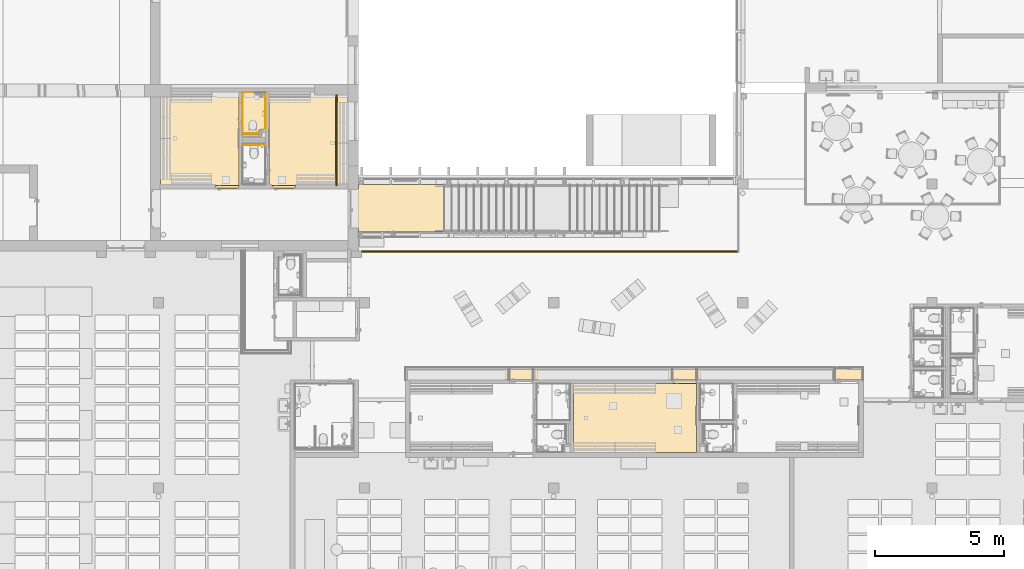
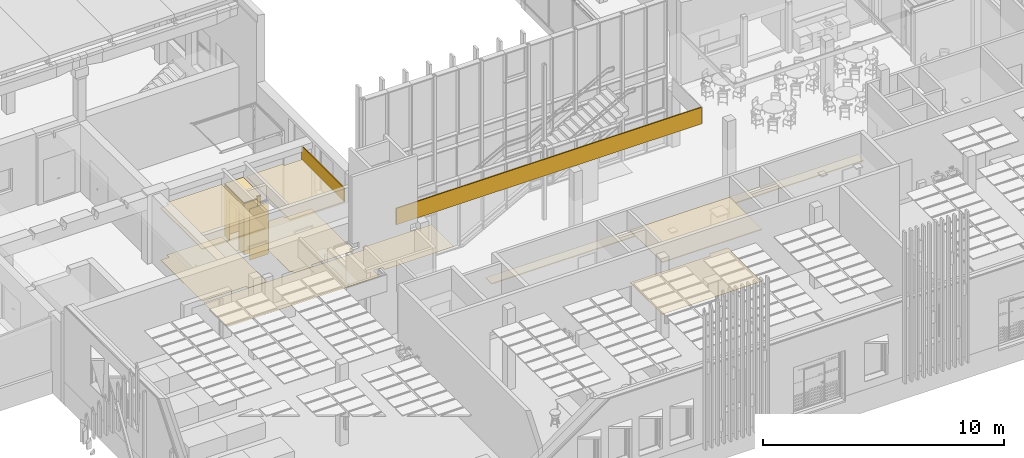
# One storey, part 236 of 301: 17 coverings, 1 opening.
"""IFC2X3 building model written with IfcOpenShell, lengths in millimetres."""

from ifc_helpers import new_model, entity, si_unit, converted_unit, derived_unit, money_unit, direction, frame, origin_with_axes, place, context, subcontext, project, spatial, faceted_brep, material, type_object, element, save


model = new_model("IFC2X3")

# Units and contexts
model_context = context("Model", 3, precision=0.01, world=origin_with_axes(), true_north=direction((0.0, 1.0)))
body_context = subcontext(model_context, "Body", "Model", "MODEL_VIEW")
ifc_project = project(units=[si_unit("LENGTHUNIT", "METRE", prefix="MILLI"), si_unit("AREAUNIT", "SQUARE_METRE"), si_unit("VOLUMEUNIT", "CUBIC_METRE"), converted_unit("PLANEANGLEUNIT", "DEGREE", entity("IfcPlaneAngleMeasure", 0.0174532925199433), si_unit("PLANEANGLEUNIT", "RADIAN"), dimensions=[0, 0, 0, 0, 0, 0, 0]), money_unit("EUR"), converted_unit("TIMEUNIT", "Year", entity("IfcTimeMeasure", 31557600.0), si_unit("TIMEUNIT", "SECOND"), dimensions=[0, 0, 1, 0, 0, 0, 0]), si_unit("MASSUNIT", "GRAM", prefix="KILO"), si_unit("THERMODYNAMICTEMPERATUREUNIT", "DEGREE_CELSIUS"), si_unit("LUMINOUSINTENSITYUNIT", "LUMEN"), si_unit("ENERGYUNIT", "JOULE", prefix="MEGA"), derived_unit("THERMALCONDUCTANCEUNIT", [(si_unit("POWERUNIT", "WATT"), 1), (si_unit("LENGTHUNIT", "METRE"), -1), (si_unit("THERMODYNAMICTEMPERATUREUNIT", "KELVIN"), -1)]), derived_unit("SPECIFICHEATCAPACITYUNIT", [(si_unit("ENERGYUNIT", "JOULE"), 1), (si_unit("MASSUNIT", "GRAM", prefix="KILO"), -1), (si_unit("THERMODYNAMICTEMPERATUREUNIT", "KELVIN"), -1)]), derived_unit("MASSDENSITYUNIT", [(si_unit("MASSUNIT", "GRAM", prefix="KILO"), 1), (si_unit("VOLUMEUNIT", "CUBIC_METRE"), -1)])], contexts=[model_context])

# Site, building, storey
site_placement = place(None, frame((0.0, 0.0, 8650.0), z_axis=(0.0, 0.0, 1.0), x_axis=(1.0, 0.0, 0.0)))
site = spatial("IfcSite", under=ifc_project, at=site_placement, Name="43301:001:0844", CompositionType="ELEMENT")
building_placement = place(site_placement, origin_with_axes())
building = spatial("IfcBuilding", under=site, at=building_placement, Name="Kuressaare Ametikooli tuulikute mehaanikute õppekorpus", CompositionType="ELEMENT")
storey_placement = place(building_placement, origin_with_axes())
storey = spatial("IfcBuildingStorey", under=building, at=storey_placement, Name="1.korrus", CompositionType="ELEMENT", Elevation=0.0)

# Coverings
ifc_material_1 = material(Name="GENEERILINE - KONSTRUKTRIOON")
covering_type_1 = type_object("IfcCoveringType", Name="GENEERILINE - KONSTRUKTRIOON 50", PredefinedType="CEILING")
covering_1_placement = place(storey_placement, frame((100167.7066643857, 28323.06892365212, 2600.0), z_axis=(0.0, 0.0, 1.0), x_axis=(1.0, 0.0, 0.0)))
element("IfcCovering", 1, at=covering_1_placement, inside=storey, type_object=covering_type_1, material=ifc_material_1, Name="RL2", PredefinedType="CEILING", context=body_context, shape_type="Brep", body=[
    faceted_brep([(0.0, 0.0, 49.99999999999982), (0.0, 0.0, 0.0), (2639.805547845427, 0.0, 0.0), (2639.805547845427, 0.0, 49.99999999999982), (0.0, 3630.940473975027, 49.99999999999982), (0.0, 3630.940473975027, 0.0), (1752.055026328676, 3630.940582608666, 0.0), (1752.055033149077, 3520.9405741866, 0.0), (2639.805547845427, 3520.940566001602, 0.0), (2639.805547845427, 3520.940566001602, 49.99999999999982), (1752.055033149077, 3520.9405741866, 49.99999999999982), (1752.055026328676, 3630.940582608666, 49.99999999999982)], [[[0, 1, 2, 3]], [[4, 5, 1, 0]], [[2, 1, 5, 6, 7, 8]], [[3, 2, 8, 9]], [[4, 0, 3, 9, 10, 11]], [[11, 6, 5, 4]], [[10, 7, 6, 11]], [[9, 8, 7, 10]]]),
])
covering_2_placement = place(storey_placement, frame((111995.5122796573, 17954.82307385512, 2600.0), z_axis=(0.0, 0.0, 1.0), x_axis=(1.0, 0.0, 0.0)))
element("IfcCovering", 2, at=covering_2_placement, inside=storey, type_object=covering_type_1, material=ifc_material_1, Name="RL2", PredefinedType="CEILING", context=body_context, shape_type="Brep", body=[
    faceted_brep([(0.0, 0.0, 49.99999999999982), (0.0, 0.0, 0.0), (4769.747835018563, 0.0, 0.0), (4769.747835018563, 0.0, 49.99999999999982), (0.0, 2670.013509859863, 49.99999999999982), (0.0, 2670.013509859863, 0.0), (4769.747835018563, 2670.013509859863, 0.0), (4769.747835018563, 2670.013509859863, 49.99999999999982)], [[[0, 1, 2, 3]], [[4, 5, 1, 0]], [[2, 1, 5, 6]], [[3, 2, 6, 7]], [[4, 0, 3, 7]], [[7, 6, 5, 4]]]),
])
covering_3_placement = place(storey_placement, frame((99127.70666438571, 30337.46253215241, 2600.0), z_axis=(0.0, 0.0, 1.0), x_axis=(1.0, 0.0, 0.0)))
element("IfcCovering", 3, at=covering_3_placement, inside=storey, type_object=covering_type_1, material=ifc_material_1, Name="RL2", PredefinedType="CEILING", context=body_context, shape_type="Brep", body=[
    faceted_brep([(0.0, 0.0, 49.99999999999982), (0.0, 0.0, 0.0), (651.9991944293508, 0.2815031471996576, 0.0), (651.9991944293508, 0.2815031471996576, 49.99999999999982), (0.0, 1616.546960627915, 49.99999999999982), (0.0, 1616.546960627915, 0.0), (900.2481020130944, 1616.546960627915, 0.0), (900.2481020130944, 140.2300330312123, 0.0), (652.1582088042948, 140.5113558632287, 0.0), (652.1582088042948, 140.5113558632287, 49.99999999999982), (900.2481020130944, 140.2300330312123, 49.99999999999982), (900.2481020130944, 1616.546960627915, 49.99999999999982)], [[[0, 1, 2, 3]], [[4, 5, 1, 0]], [[2, 1, 5, 6, 7, 8]], [[3, 2, 8, 9]], [[4, 0, 3, 9, 10, 11]], [[11, 6, 5, 4]], [[10, 7, 6, 11]], [[9, 8, 7, 10]]]),
])
covering_4_placement = place(storey_placement, frame((95947.90111654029, 28323.06892365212, 2600.0), z_axis=(0.0, 0.0, 1.0), x_axis=(1.0, 0.0, 0.0)))
element("IfcCovering", 4, at=covering_4_placement, inside=storey, type_object=covering_type_1, material=ifc_material_1, Name="RL2", PredefinedType="CEILING", context=body_context, shape_type="Brep", body=[
    faceted_brep([(0.0, 0.0, 49.99999999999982), (0.0, 0.0, 0.0), (3039.805547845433, 0.0, 0.0), (3039.805547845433, 0.0, 49.99999999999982), (0.0, 3431.776669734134, 49.99999999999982), (0.0, 3431.776669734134, 0.0), (398.6829363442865, 3431.776694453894, 0.0), (398.6829239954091, 3630.940593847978, 0.0), (3039.805547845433, 3630.94056949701, 0.0), (3039.805547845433, 3630.94056949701, 49.99999999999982), (398.6829239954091, 3630.940593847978, 49.99999999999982), (398.6829363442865, 3431.776694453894, 49.99999999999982)], [[[0, 1, 2, 3]], [[4, 5, 1, 0]], [[2, 1, 5, 6, 7, 8]], [[3, 2, 8, 9]], [[4, 0, 3, 9, 10, 11]], [[11, 6, 5, 4]], [[10, 7, 6, 11]], [[9, 8, 7, 10]]]),
])
covering_5_placement = place(storey_placement, frame((105455.5119465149, 20764.83569353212, 2100.0), z_axis=(0.0, 0.0, 1.0), x_axis=(1.0, 0.0, 0.0)))
element("IfcCovering", 5, at=covering_5_placement, inside=storey, type_object=covering_type_1, material=ifc_material_1, Name="RL2", PredefinedType="CEILING", context=body_context, shape_type="Brep", body=[
    faceted_brep([(0.0, 0.0, 49.99999999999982), (0.0, 0.0, 0.0), (17799.74958654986, 0.0, 0.0), (17799.74958654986, 0.0, 49.99999999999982), (0.0, 500.0024376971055, 49.99999999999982), (0.0, 500.0024376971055, 0.0), (17799.74958654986, 500.0024376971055, 0.0), (17799.74958654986, 500.0024376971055, 49.99999999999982)], [[[0, 1, 2, 3]], [[4, 5, 1, 0]], [[2, 1, 5, 6]], [[3, 2, 6, 7]], [[4, 0, 3, 7]], [[7, 6, 5, 4]]]),
])
ifc_material_2 = material(Name="SA_viimistluskiht")
covering_type_2 = type_object("IfcCoveringType", Name="SA_viimistluskiht 10", PredefinedType="CLADDING")
covering_6_placement = place(storey_placement, frame((99129.54832818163, 29898.48180851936, 0.0), z_axis=(0.0, 0.0, 1.0), x_axis=(0.9999999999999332, -3.658297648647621e-07, 0.0)))
element("IfcCovering", 6, at=covering_6_placement, inside=storey, type_object=covering_type_2, material=ifc_material_2, Name="S3", PredefinedType="CLADDING", context=body_context, shape_type="Brep", body=[
    faceted_brep([(0.0, -10.00000000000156, 0.0), (0.0, 0.0, 0.0), (897.9775352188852, 0.0, 0.0), (897.9775352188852, -10.00000000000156, 0.0), (0.0, -10.00000000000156, 2600.0), (0.0, 0.0, 2600.0), (897.9775352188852, 0.0, 2600.0), (897.9775352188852, -10.00000000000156, 2600.0)], [[[0, 1, 2, 3]], [[4, 5, 1, 0]], [[1, 5, 6, 2]], [[7, 3, 2, 6]], [[4, 0, 3, 7]], [[5, 4, 7, 6]]]),
])

# Covering, opening
covering_7_placement = place(storey_placement, frame((99127.76994041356, 31954.00949285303, 0.0), z_axis=(0.0, 0.0, 1.0), x_axis=(0.0001147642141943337, -0.9999999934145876, 0.0)))
covering_7 = element("IfcCovering", 7, at=covering_7_placement, inside=storey, type_object=covering_type_2, material=ifc_material_2, Name="S3", PredefinedType="CLADDING", context=body_context, shape_type="Brep", body=[
    faceted_brep([(399.9999848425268, 10.00000000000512, 2110.0), (399.9999848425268, 10.00000000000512, 0.0), (0.001136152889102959, 10.00000000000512, 0.0), (0.001136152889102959, 10.00000000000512, 2600.0), (1605.538891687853, 10.00000000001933, 2600.0), (1605.538891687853, 10.00000000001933, 0.0), (1209.999984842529, 10.00000000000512, 0.0), (1209.999984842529, 10.00000000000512, 2110.0), (399.9999848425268, 0.0, 2110.0), (399.9999848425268, 0.0, 0.0), (0.0, 0.0, 0.0), (0.0, 0.0, 2600.0), (1605.526404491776, 0.0, 2600.0), (1605.526404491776, 0.0, 0.0), (1209.999984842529, 0.0, 0.0), (1209.999984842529, 0.0, 2110.0)], [[[0, 1, 2, 3, 4, 5, 6, 7]], [[1, 0, 8, 9]], [[1, 9, 10, 2]], [[3, 2, 10, 11]], [[4, 3, 11, 12]], [[4, 12, 13, 5]], [[14, 6, 5, 13]], [[7, 6, 14, 15]], [[0, 7, 15, 8]], [[15, 14, 13, 12, 11, 10, 9, 8]]]),
])
opening_placement = place(covering_7_placement, frame((804.999984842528, 0.0, 0.0), z_axis=(0.0, 0.0, 1.0), x_axis=(1.0, 0.0, 0.0)))
element("IfcOpeningElement", 8, at=opening_placement, cuts=covering_7, Name="ava", context=body_context, shape_type="Brep", body=[
    faceted_brep([(405.0000000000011, 0.0, 0.0), (405.0000000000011, 0.0, 2110.0), (405.0000000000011, -1.185404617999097, 2110.0), (405.0000000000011, -1.185404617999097, 0.0), (405.0000000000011, 11.18540461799, 0.0), (405.0000000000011, 11.18540461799, 2110.0), (-405.0000000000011, 0.0, 2110.0), (-405.0000000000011, -1.185404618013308, 2110.0), (-405.0000000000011, -1.185404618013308, 0.0), (-405.0000000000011, 0.0, 0.0), (-404.9999999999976, 11.18540461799, 0.0), (-404.9999999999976, 11.18540461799, 2110.0)], [[[0, 1, 2, 3]], [[1, 0, 4, 5]], [[1, 6, 7, 2]], [[8, 3, 2, 7]], [[9, 0, 3, 8]], [[0, 9, 10, 4]], [[5, 4, 10, 11]], [[6, 1, 5, 11]], [[6, 9, 8, 7]], [[9, 6, 11, 10]]]),
])

# Coverings
covering_8_placement = place(storey_placement, frame((100027.7066643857, 30477.9740682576, 0.0), z_axis=(0.0, 0.0, 1.0), x_axis=(-0.001201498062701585, 0.9999992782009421, 0.0)))
element("IfcCovering", 9, at=covering_8_placement, inside=storey, type_object=covering_type_2, material=ifc_material_2, Name="S3", PredefinedType="CLADDING", context=body_context, shape_type="Brep", body=[
    faceted_brep([(0.0120149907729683, 10.00000000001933, 2600.0), (1.413980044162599e-09, 0.0, 2600.0), (1476.03752192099, 0.0, 2600.0), (1476.049525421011, 10.00000000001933, 2600.0), (0.0120149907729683, 10.00000000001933, 0.0), (1.413980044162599e-09, 0.0, 0.0), (1476.03752192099, 0.0, 0.0), (1476.049525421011, 10.00000000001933, 0.0)], [[[0, 1, 2, 3]], [[1, 0, 4, 5]], [[1, 5, 6, 2]], [[3, 2, 6, 7]], [[4, 0, 3, 7]], [[5, 4, 7, 6]]]),
])
covering_9_placement = place(storey_placement, frame((100025.9332081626, 31954.01052477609, 0.0), z_axis=(0.0, 0.0, 1.0), x_axis=(-0.9999999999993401, -1.148925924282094e-06, 0.0)))
element("IfcCovering", 10, at=covering_9_placement, inside=storey, type_object=covering_type_2, material=ifc_material_2, Name="S3", PredefinedType="CLADDING", context=body_context, shape_type="Brep", body=[
    faceted_brep([(888.1621315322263, 10.00000000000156, 2600.0), (9.988003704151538, 10.00000000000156, 2600.0), (10.00000720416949, 0.0, 2600.0), (888.1632676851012, 0.0, 2600.0), (888.1621315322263, 10.00000000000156, 0.0), (9.988003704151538, 10.00000000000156, 0.0), (10.00000720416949, 0.0, 0.0), (888.1632676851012, 0.0, 0.0)], [[[0, 1, 2, 3]], [[4, 5, 1, 0]], [[2, 1, 5, 6]], [[3, 2, 6, 7]], [[3, 7, 4, 0]], [[7, 6, 5, 4]]]),
])
covering_10_placement = place(storey_placement, frame((99779.70585881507, 30337.74403529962, 0.0), z_axis=(0.0, 0.0, 1.0), x_axis=(-0.9999993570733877, 0.001133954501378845, 0.0)))
element("IfcCovering", 11, at=covering_10_placement, inside=storey, type_object=covering_type_2, material=ifc_material_2, Name="S3", PredefinedType="CLADDING", context=body_context, shape_type="Brep", body=[
    faceted_brep([(0.0, 0.0, 2600.0), (0.01133503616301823, -10.00000000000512, 2600.0), (651.7509328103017, -10.00000000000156, 2600.0), (651.7509328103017, 0.0, 2600.0), (0.01133503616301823, -10.00000000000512, 0.0), (0.0, 0.0, 0.0), (651.7509328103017, -10.00000000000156, 0.0), (651.7509328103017, 0.0, 0.0)], [[[0, 1, 2, 3]], [[4, 1, 0, 5]], [[1, 4, 6, 2]], [[2, 6, 7, 3]], [[5, 0, 3, 7]], [[4, 5, 7, 6]]]),
])
covering_type_3 = type_object("IfcCoveringType", Name="GENEERILINE - KONSTRUKTRIOON 3", PredefinedType="FLOORING")
covering_11_placement = place(storey_placement, frame((103647.5122070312, 28359.57374875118, 0.0), z_axis=(0.0, 0.0, 1.0), x_axis=(1.0, 0.0, 0.0)))
element("IfcCovering", 12, at=covering_11_placement, inside=storey, type_object=covering_type_3, material=ifc_material_1, Name="P9", PredefinedType="FLOORING", context=body_context, shape_type="Brep", body=[
    faceted_brep([(0.0, 0.0, 0.0), (0.0, 0.0, -3.0), (0.0, -176.504825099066, -3.0), (0.0, -176.504825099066, 0.0), (3314.590475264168, 0.0, 0.0), (3314.590475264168, 0.0, -3.0), (3314.590475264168, -1850.000000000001, -3.0), (0.0, -1850.000000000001, -3.0), (0.0, -1679.663088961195, -3.0), (-420.0000000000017, -1679.663088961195, -3.0), (-420.0000000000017, -2176.504824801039, -3.0), (-7699.611090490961, -2176.504824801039, -3.0), (-7699.611090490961, -176.504825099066, -3.0), (-7699.611090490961, -176.504825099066, 0.0), (-7699.611090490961, -2176.504824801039, 0.0), (-420.0000000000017, -2176.504824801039, 0.0), (-420.0000000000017, -1679.663088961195, 0.0), (0.0, -1679.663088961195, 0.0), (0.0, -1850.000000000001, 0.0), (3314.590475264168, -1850.000000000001, 0.0)], [[[0, 1, 2, 3]], [[4, 5, 1, 0]], [[2, 1, 5, 6, 7, 8, 9, 10, 11, 12]], [[3, 2, 12, 13]], [[4, 0, 3, 13, 14, 15, 16, 17, 18, 19]], [[19, 6, 5, 4]], [[18, 7, 6, 19]], [[17, 8, 7, 18]], [[16, 9, 8, 17]], [[15, 10, 9, 16]], [[14, 11, 10, 15]], [[13, 12, 11, 14]]]),
])
covering_type_4 = type_object("IfcCoveringType", Name="GENEERILINE - KONSTRUKTRIOON 10", PredefinedType="FLOORING")
covering_12_placement = place(storey_placement, frame((98987.70657742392, 31553.99226673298, 0.0), z_axis=(0.0, 0.0, 1.0), x_axis=(1.0, 0.0, 0.0)))
element("IfcCovering", 13, at=covering_12_placement, inside=storey, type_object=covering_type_4, material=ifc_material_1, Name="P3a", PredefinedType="FLOORING", context=body_context, shape_type="Brep", body=[
    faceted_brep([(0.0, 0.0, 0.0), (0.0, 0.0, -10.0), (9.510088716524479e-05, -809.9827678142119, -10.0), (9.510088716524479e-05, -809.9827678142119, 0.0), (150.0930509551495, 0.0, 0.0), (150.0930509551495, 0.0, -10.0), (150.064510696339, 390.0172376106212, -10.0), (1028.142687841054, 390.0172376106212, -10.0), (1028.142687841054, -1076.018187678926, -10.0), (791.9993559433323, -1076.018187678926, -10.0), (791.9993559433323, -1205.509413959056, -10.0), (150.0000422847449, -1205.509413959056, -10.0), (150.0000660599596, -809.9827915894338, -10.0), (150.0000660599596, -809.9827915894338, 0.0), (150.0000422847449, -1205.509413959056, 0.0), (791.9993559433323, -1205.509413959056, 0.0), (791.9993559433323, -1076.018187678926, 0.0), (1028.142687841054, -1076.018187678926, 0.0), (1028.142687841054, 390.0172376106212, 0.0), (150.064510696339, 390.0172376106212, 0.0)], [[[0, 1, 2, 3]], [[4, 5, 1, 0]], [[2, 1, 5, 6, 7, 8, 9, 10, 11, 12]], [[3, 2, 12, 13]], [[4, 0, 3, 13, 14, 15, 16, 17, 18, 19]], [[19, 6, 5, 4]], [[18, 7, 6, 19]], [[17, 8, 7, 18]], [[16, 9, 8, 17]], [[15, 10, 9, 16]], [[14, 11, 10, 15]], [[13, 12, 11, 14]]]),
])
covering_13_placement = place(storey_placement, frame((95947.90113090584, 28323.06892365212, 0.0), z_axis=(0.0, 0.0, 1.0), x_axis=(1.0, 0.0, 0.0)))
element("IfcCovering", 14, at=covering_13_placement, inside=storey, type_object=covering_type_4, material=ifc_material_1, Name="P3a", PredefinedType="FLOORING", context=body_context, shape_type="Brep", body=[
    faceted_brep([(0.0, 0.0, 0.0), (0.0, 0.0, -10.0), (2129.805533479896, 0.0, -10.0), (2129.805533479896, 0.0, 0.0), (0.0, 3431.776698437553, 0.0), (0.0, 3431.776698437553, -10.0), (398.6828884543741, 3431.776698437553, -10.0), (398.6828884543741, 3630.940569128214, -10.0), (3039.805516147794, 3630.940569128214, -10.0), (3039.805516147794, -140.0000000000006, -10.0), (2129.805533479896, -140.0000000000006, -10.0), (2129.805533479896, -140.0000000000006, 0.0), (3039.805516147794, -140.0000000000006, 0.0), (3039.805516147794, 3630.940569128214, 0.0), (398.6828884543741, 3630.940569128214, 0.0), (398.6828884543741, 3431.776698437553, 0.0)], [[[0, 1, 2, 3]], [[4, 5, 1, 0]], [[1, 5, 6, 7, 8, 9, 10, 2]], [[3, 2, 10, 11]], [[4, 0, 3, 11, 12, 13, 14, 15]], [[15, 6, 5, 4]], [[14, 7, 6, 15]], [[13, 8, 7, 14]], [[12, 9, 8, 13]], [[11, 10, 9, 12]]]),
])
covering_14_placement = place(storey_placement, frame((103227.520297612, 28323.07731232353, 0.0), z_axis=(0.0, 0.0, 1.0), x_axis=(1.0, 0.0, 0.0)))
element("IfcCovering", 15, at=covering_14_placement, inside=storey, type_object=covering_type_4, material=ifc_material_1, Name="P3a", PredefinedType="FLOORING", context=body_context, shape_type="Brep", body=[
    faceted_brep([(0.0, 0.0, 0.0), (0.0, 0.0, -10.0), (-0.00809058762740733, 3520.935188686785, -10.0), (-0.00809058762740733, 3520.935188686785, 0.0), (-2039.813633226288, -0.008388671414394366, 0.0), (-2039.813633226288, -0.008388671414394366, -10.0), (-2039.813633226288, -140.008388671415, -10.0), (-2949.813633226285, -140.008388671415, -10.0), (-2949.813633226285, -0.008388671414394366, -10.0), (-3061.502320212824, -0.007034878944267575, -10.0), (-3061.510663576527, 3630.933534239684, -10.0), (-1307.758850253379, 3630.937564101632, -10.0), (-1307.758597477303, 3520.932183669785, -10.0), (-1307.758597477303, 3520.932183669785, 0.0), (-1307.758850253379, 3630.937564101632, 0.0), (-3061.510663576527, 3630.933534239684, 0.0), (-3061.502320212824, -0.007034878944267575, 0.0), (-2949.813633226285, -0.008388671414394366, 0.0), (-2949.813633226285, -140.008388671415, 0.0), (-2039.813633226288, -140.008388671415, 0.0)], [[[0, 1, 2, 3]], [[4, 5, 1, 0]], [[2, 1, 5, 6, 7, 8, 9, 10, 11, 12]], [[3, 2, 12, 13]], [[0, 3, 13, 14, 15, 16, 17, 18, 19, 4]], [[19, 6, 5, 4]], [[18, 7, 6, 19]], [[17, 8, 7, 18]], [[16, 9, 8, 17]], [[15, 10, 9, 16]], [[14, 11, 10, 15]], [[13, 12, 11, 14]]]),
])
covering_15_placement = place(storey_placement, frame((116765.2660448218, 17954.82307385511, 0.0), z_axis=(0.0, 0.0, 1.0), x_axis=(1.0, 0.0, 0.0)))
element("IfcCovering", 16, at=covering_15_placement, inside=storey, type_object=covering_type_4, material=ifc_material_1, Name="P3a", PredefinedType="FLOORING", context=body_context, shape_type="Brep", body=[
    faceted_brep([(0.0, 0.0, 0.0), (0.0, 0.0, -10.0), (-0.0004170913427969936, 2810.037342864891, -10.0), (-0.0004170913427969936, 2810.037342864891, 0.0), (-4770.000300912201, 0.03580402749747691, 0.0), (-4770.000300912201, 0.03580402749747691, -10.0), (-4770.000389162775, 2670.036689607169, -10.0), (-910.0059301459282, 2670.014043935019, -10.0), (-910.009514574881, 2810.014043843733, -10.0), (-910.009514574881, 2810.014043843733, 0.0), (-910.0059301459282, 2670.014043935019, 0.0), (-4770.000389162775, 2670.036689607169, 0.0)], [[[0, 1, 2, 3]], [[4, 5, 1, 0]], [[2, 1, 5, 6, 7, 8]], [[3, 2, 8, 9]], [[4, 0, 3, 9, 10, 11]], [[11, 6, 5, 4]], [[10, 7, 6, 11]], [[9, 8, 7, 10]]]),
])
ifc_material_3 = material(Name="Air Space")
covering_type_5 = type_object("IfcCoveringType", Name="Air Space 50", PredefinedType="CEILING")
covering_16_placement = place(storey_placement, frame((102807.5122122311, 28323.06892365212, 2650.0), z_axis=(0.0, 0.0, 1.0), x_axis=(0.0, 1.0, 0.0)))
element("IfcCovering", 17, at=covering_16_placement, inside=storey, type_object=covering_type_5, material=ifc_material_3, Name="RL2", PredefinedType="CEILING", context=body_context, shape_type="Brep", body=[
    faceted_brep([(3520.940566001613, 49.99999999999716, 0.0), (3520.940566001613, 0.0, 0.0), (0.0, 0.0, 0.0), (0.0, 49.99999999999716, 0.0), (3520.940566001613, 49.99999999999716, 676.0000000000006), (3520.940566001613, 0.0, 676.0000000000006), (0.0, 0.0, 676.0000000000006), (0.0, 49.99999999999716, 676.0000000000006)], [[[0, 1, 2, 3]], [[0, 4, 5, 1]], [[1, 5, 6, 2]], [[3, 2, 6, 7]], [[4, 0, 3, 7]], [[5, 4, 7, 6]]]),
])
covering_17_placement = place(storey_placement, frame((118367.946571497, 25783.06892395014, 2690.000017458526), z_axis=(0.0, 0.0, 1.0), x_axis=(-1.0, 0.0, 0.0)))
element("IfcCovering", 18, at=covering_17_placement, inside=storey, type_object=covering_type_5, material=ifc_material_3, Name="RL1", PredefinedType="CEILING", context=body_context, shape_type="Brep", body=[
    faceted_brep([(14611.63008979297, 50.00000000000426, 0.0), (14611.63008979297, 0.0, 0.0), (0.0, 0.0, 0.0), (0.0, 50.00000000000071, 0.0), (14611.63008979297, 50.00000000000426, 839.9999825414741), (14611.63008979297, 0.0, 839.9999825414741), (0.0, 0.0, 839.9999825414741), (0.0, 50.00000000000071, 839.9999825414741)], [[[0, 1, 2, 3]], [[0, 4, 5, 1]], [[1, 5, 6, 2]], [[3, 2, 6, 7]], [[4, 0, 3, 7]], [[5, 4, 7, 6]]]),
])

save(model, "model.ifc")
